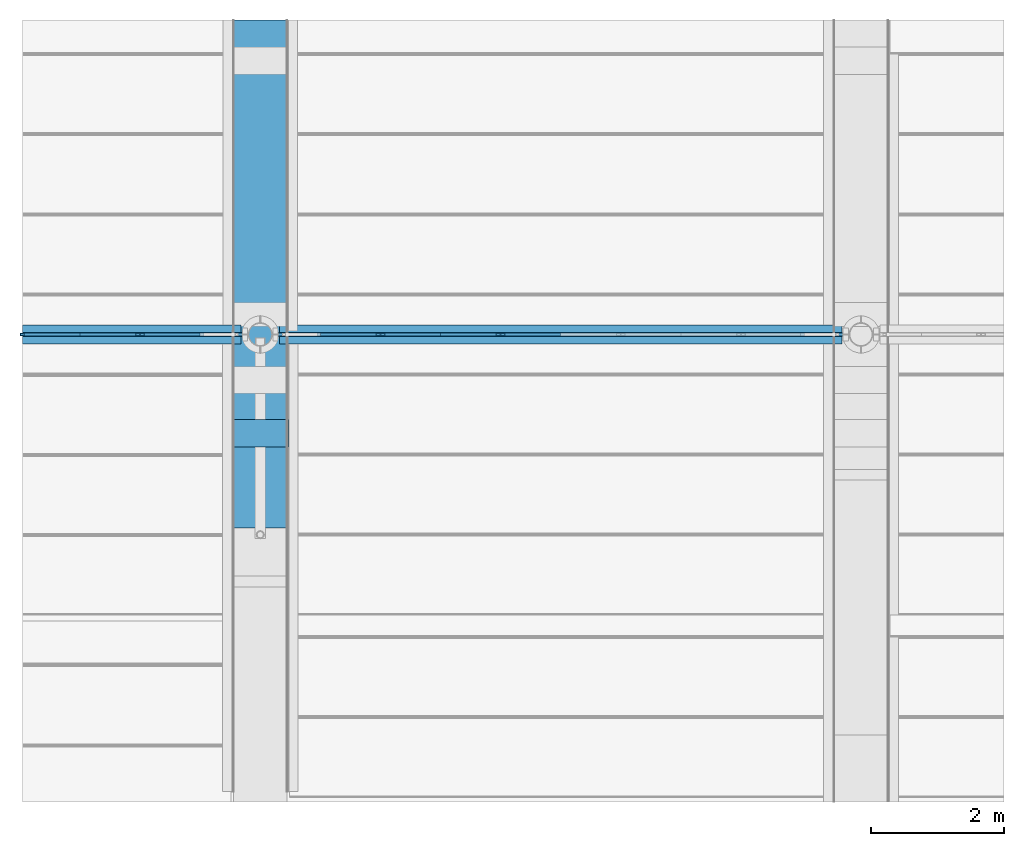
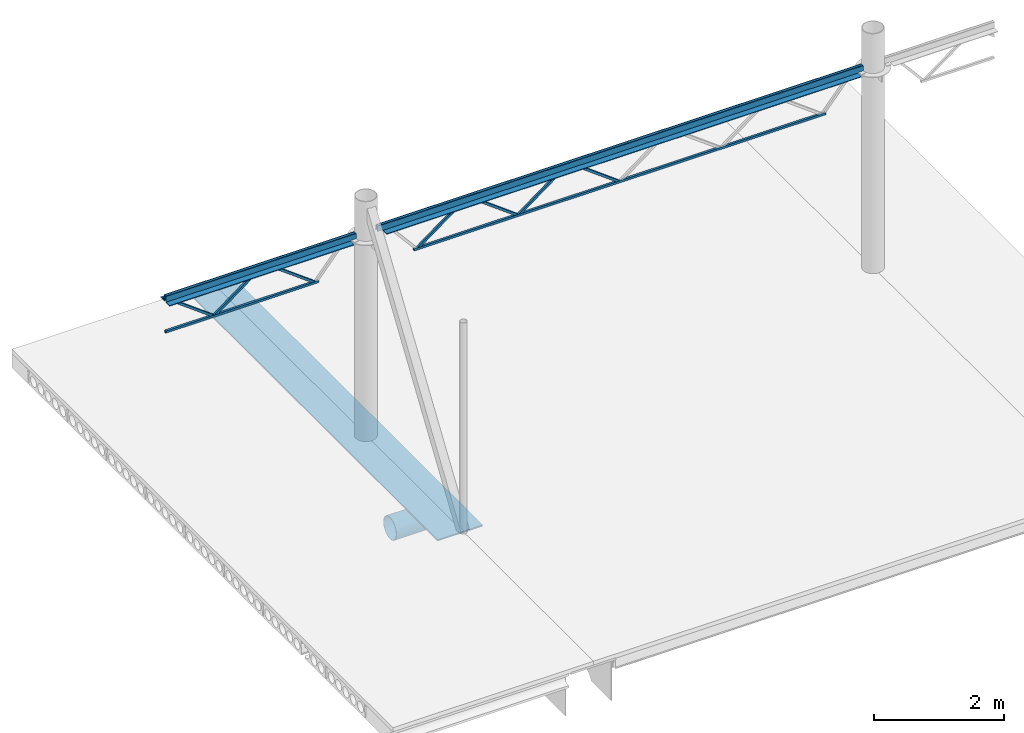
# One storey, part 5 of 21: 17 beams.
"""IFC2X3 building model written with IfcOpenShell, lengths in millimetres."""

from ifc_helpers import new_model, entity, si_unit, converted_unit, derived_unit, direction, frame, origin_with_axes, place, context, subcontext, project, spatial, faceted_brep, material, type_object, element, save


model = new_model("IFC2X3")

# Units and contexts
model_context = context("Model", 3, precision=0.01, world=frame((0.0, 4.29681676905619e-09, 0.0)), true_north=direction((4.01073788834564e-13, 1.0)))
plan_context = context("Plan", 3, precision=0.01, world=frame((0.0, 4.29681676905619e-09, 0.0)), true_north=direction((4.01073788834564e-13, 1.0)))
body_context = subcontext(model_context, "Body", "Model", "MODEL_VIEW")
ifc_project = project(units=[converted_unit("PLANEANGLEUNIT", "DEGREE", entity("IfcPositiveLengthMeasure", 0.0174532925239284), si_unit("PLANEANGLEUNIT", "RADIAN"), dimensions=[0, 0, 0, 0, 0, 0, 0]), si_unit("AREAUNIT", "SQUARE_METRE"), si_unit("LENGTHUNIT", "METRE", prefix="MILLI"), si_unit("MASSUNIT", "GRAM", prefix="KILO"), si_unit("POWERUNIT", "WATT"), si_unit("PRESSUREUNIT", "PASCAL", prefix="KILO"), si_unit("FORCEUNIT", "NEWTON", prefix="KILO"), si_unit("ELECTRICVOLTAGEUNIT", "VOLT"), si_unit("ELECTRICCURRENTUNIT", "AMPERE"), si_unit("THERMODYNAMICTEMPERATUREUNIT", "DEGREE_CELSIUS"), si_unit("TIMEUNIT", "SECOND"), si_unit("VOLUMEUNIT", "CUBIC_METRE"), derived_unit("LINEARVELOCITYUNIT", [(si_unit("LENGTHUNIT", "METRE"), 1), (si_unit("TIMEUNIT", "SECOND"), -1)]), derived_unit("VOLUMETRICFLOWRATEUNIT", [(si_unit("VOLUMEUNIT", "CUBIC_METRE"), 1), (si_unit("TIMEUNIT", "SECOND"), -1)]), derived_unit("THERMALTRANSMITTANCEUNIT", [(si_unit("POWERUNIT", "WATT"), 1), (si_unit("THERMODYNAMICTEMPERATUREUNIT", "KELVIN"), -1), (si_unit("AREAUNIT", "SQUARE_METRE"), -1)]), derived_unit("SOUNDPRESSUREUNIT", [(si_unit("PRESSUREUNIT", "PASCAL"), 1)])], contexts=[model_context, plan_context])

# Site, building, storey
site_placement = place(None, frame((0.0, -4.29681676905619e-09, 0.0), z_axis=(0.0, 0.0, 1.0), x_axis=(1.0, 0.0, 0.0)))
site = spatial("IfcSite", under=ifc_project, at=site_placement, Name="Gardermoen", CompositionType="ELEMENT")
building_placement = place(site_placement, frame((0.0, 4.29681676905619e-09, 0.0), z_axis=(0.0, 0.0, 1.0), x_axis=(1.0, 0.0, 0.0)))
building = spatial("IfcBuilding", under=site, at=building_placement, Name="TS", CompositionType="ELEMENT")
storey_placement = place(building_placement, origin_with_axes())
storey = spatial("IfcBuildingStorey", under=building, at=storey_placement, Name="F", CompositionType="ELEMENT", Elevation=0.0)

# Beams
ifc_material = material(Name="STEEL/S355")
beam_type_1 = type_object("IfcBeamType", Name="L120*12", PredefinedType="NOTDEFINED")
beam_1_placement = place(storey_placement, frame((726812.499965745, 441419.999999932, 214681.000071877), z_axis=(0.0, -1.0, 0.0), x_axis=(-0.999999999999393, 0.0, 1.10199977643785e-06)))
element("IfcBeam", 1, at=beam_1_placement, inside=storey, type_object=beam_type_1, material=ifc_material, Name="STÅLBJELKE", ObjectType="L120*12", context=body_context, shape_type="Brep", body=[
    faceted_brep([(8524.99995152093, 47.9999999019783, 60.0), (8524.99995152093, 47.9999999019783, -48.0), (8524.99996813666, 38.014185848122, -48.0), (8524.99996813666, 38.014185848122, -60.0), (8524.99993152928, 59.9999999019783, -60.0), (8524.99993152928, 59.9999999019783, 60.0), (8624.99996813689, 38.0143522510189, -48.0), (8625.00000020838, 38.0143522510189, -60.0), (99.9998303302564, 48.0000000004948, 60.0), (99.9998114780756, 60.0000000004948, 60.0), (99.9998114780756, 60.0000000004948, -60.0), (99.9998460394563, 38.0001571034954, -60.0), (99.9998460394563, 38.0001571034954, -48.0), (99.9998303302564, 48.0000000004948, -48.0), (8.14907252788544e-10, 38.0000000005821, -60.0), (8.14907252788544e-10, 38.0000000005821, -48.0), (-3.02679836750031e-09, -60.0, -59.9999999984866), (-2.44472175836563e-09, -60.0, -47.9999999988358), (8625.00000020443, -60.0000000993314, -60.0), (8625.00000020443, -60.0000000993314, -48.0)], [[[0, 1, 2, 3, 4, 5]], [[6, 7, 3, 2]], [[8, 9, 10, 11, 12, 13]], [[12, 11, 14, 15]], [[16, 17, 15, 14]], [[17, 16, 18, 19]], [[1, 13, 12, 15, 17, 19, 6, 2]], [[8, 13, 1, 0]], [[9, 8, 0, 5]], [[10, 9, 5, 4]], [[18, 16, 14, 11, 10, 4, 3, 7]], [[19, 18, 7, 6]]]),
])
beam_2_placement = place(storey_placement, frame((726812.499965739, 441579.999999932, 214681.000071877), z_axis=(1.57099997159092e-06, 0.0, 0.999999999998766), x_axis=(-0.999999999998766, 0.0, 1.57099997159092e-06)))
element("IfcBeam", 2, at=beam_2_placement, inside=storey, type_object=beam_type_1, material=ifc_material, Name="STÅLBJELKE", ObjectType="L120*12", context=body_context, shape_type="Brep", body=[
    faceted_brep([(8524.99995152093, 47.9999999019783, -48.0), (8524.99995151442, -60.0, -47.9999999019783), (8524.99993152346, -60.0, -59.9999999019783), (8524.99993152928, 59.9999999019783, -60.0), (8524.99996813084, 60.0, -38.014185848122), (8524.99996813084, 48.0, -38.014185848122), (8624.99996813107, 48.0, -38.0143522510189), (8625.00000020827, 60.0, -38.0143522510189), (99.9998460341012, 48.0, -38.0001571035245), (99.9998460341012, 60.0, -38.0001571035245), (99.9998114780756, 60.0000000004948, -60.0), (99.9998114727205, -60.0, -60.0000000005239), (99.9998303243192, -60.0, -48.0000000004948), (99.9998303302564, 48.0000000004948, -48.0), (8.14907252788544e-10, 48.0, -38.0000000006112), (8.14907252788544e-10, 60.0, -38.0000000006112), (2.91038304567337e-09, 48.0, 59.9999999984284), (2.91038304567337e-09, 60.0, 59.9999999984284), (8625.00000020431, 48.0, 60.0000000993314), (8625.00000020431, 60.0, 60.0000000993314)], [[[0, 1, 2, 3, 4, 5]], [[6, 5, 4, 7]], [[8, 9, 10, 11, 12, 13]], [[14, 15, 9, 8]], [[16, 17, 15, 14]], [[17, 16, 18, 19]], [[19, 18, 6, 7]], [[3, 10, 9, 15, 17, 19, 7, 4]], [[11, 10, 3, 2]], [[12, 11, 2, 1]], [[13, 12, 1, 0]], [[18, 16, 14, 8, 13, 0, 5, 6]]]),
])
beam_3_placement = place(storey_placement, frame((717812.499965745, 441419.999999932, 214681.000071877), z_axis=(0.0, -1.0, 0.0), x_axis=(-0.999999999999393, 0.0, 1.10199977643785e-06)))
element("IfcBeam", 3, at=beam_3_placement, inside=storey, type_object=beam_type_1, Name="STÅLBJELKE", ObjectType="L120*12", context=body_context, shape_type="Brep", body=[
    faceted_brep([(99.9998303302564, 48.0000000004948, -48.0), (99.9998460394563, 38.0001571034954, -48.0), (99.9998460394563, 38.0001571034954, -60.0), (99.9998114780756, 60.0000000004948, -60.0), (99.9998114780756, 60.0000000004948, 60.0), (99.9998303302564, 48.0000000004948, 60.0), (8.14907252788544e-10, 38.0000000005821, -48.0), (8.14907252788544e-10, 38.0000000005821, -60.0), (-2.44472175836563e-09, -60.0, -47.9999999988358), (-3.02679836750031e-09, -60.0, -59.9999999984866), (3374.51253186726, -60.0000000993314, -47.9999999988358), (3374.51253186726, -60.0000000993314, -60.0), (3374.51269716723, 47.9999999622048, -48.0), (3374.51241285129, 47.9999999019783, 60.0), (3374.51269716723, 59.9999999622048, 60.0), (3374.51239962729, 59.9999999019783, -60.0), (3374.51269716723, 47.9999999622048, 60.0), (3374.51269716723, 59.9999999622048, -60.0), (3374.51269716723, -60.0000000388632, -59.9999999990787), (3374.51269716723, -60.0000000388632, -47.9999999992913)], [[[0, 1, 2, 3, 4, 5]], [[6, 7, 2, 1]], [[7, 6, 8, 9]], [[10, 11, 9, 8]], [[12, 10, 8, 6, 1, 0]], [[13, 12, 0, 5]], [[14, 13, 5, 4]], [[15, 14, 4, 3]], [[11, 15, 3, 2, 7, 9]], [[12, 16, 14, 17, 18, 19]]], orient=[[False], [False], [False], [False], [False], [False], [False], [False], [False], [False]]),
])
beam_4_placement = place(storey_placement, frame((717812.499965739, 441579.999999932, 214681.000071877), z_axis=(1.57099997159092e-06, 0.0, 0.999999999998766), x_axis=(-0.999999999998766, 0.0, 1.57099997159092e-06)))
element("IfcBeam", 4, at=beam_4_placement, inside=storey, type_object=beam_type_1, Name="STÅLBJELKE", ObjectType="L120*12", context=body_context, shape_type="Brep", body=[
    faceted_brep([(99.9998303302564, 48.0000000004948, -48.0), (99.9998303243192, -60.0, -48.0000000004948), (99.9998114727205, -60.0, -60.0000000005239), (99.9998114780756, 60.0000000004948, -60.0), (99.9998460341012, 60.0, -38.0001571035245), (99.9998460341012, 48.0, -38.0001571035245), (8.14907252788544e-10, 60.0, -38.0000000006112), (8.14907252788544e-10, 48.0, -38.0000000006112), (2.91038304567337e-09, 60.0, 59.9999999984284), (2.91038304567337e-09, 48.0, 59.9999999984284), (3374.5125600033, 60.0, 60.0000000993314), (3374.5125600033, 48.0, 60.0000000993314), (3374.5127956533, 59.9999999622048, -60.0), (3374.51237148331, -60.0, -59.9999999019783), (3374.51280717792, -60.0, -47.9999999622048), (3374.51239033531, 48.0000000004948, -48.0), (3374.5127956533, -60.0, -59.9999999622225), (3374.5127956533, -60.0, -47.9999999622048), (3374.5127956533, 47.9999999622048, -48.0), (3374.5127956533, 48.0, 60.0000000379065), (3374.5127956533, 60.0, 60.0000000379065)], [[[0, 1, 2, 3, 4, 5]], [[5, 4, 6, 7]], [[7, 6, 8, 9]], [[10, 11, 9, 8]], [[12, 10, 8, 6, 4, 3]], [[13, 12, 3, 2]], [[14, 13, 2, 1]], [[15, 14, 1, 0]], [[11, 15, 0, 5, 7, 9]], [[12, 16, 17, 18, 19, 20]]], orient=[[False], [False], [False], [False], [False], [False], [False], [False], [False], [False]]),
])
beam_type_2 = type_object("IfcBeamType", Name="RHS40*4", PredefinedType="NOTDEFINED")
for number, where, z_axis, x_axis in (
    (5, (719800.500033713, 441499.999999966, 214725.999924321), (-0.597135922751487, 0.0, -0.802140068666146), (0.802140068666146, 0.0, -0.597135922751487)),
    (6, (721600.500033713, 441499.999999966, 214725.999924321), (0.597135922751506, 0.0, -0.802140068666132), (-0.802140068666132, 0.0, -0.597135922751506)),
    (7, (721600.500033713, 441499.999999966, 214725.999924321), (-0.597135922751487, 0.0, -0.802140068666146), (0.802140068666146, 0.0, -0.597135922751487)),
    (8, (719800.500033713, 441499.999999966, 214725.999924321), (0.597135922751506, 0.0, -0.802140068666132), (-0.802140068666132, 0.0, -0.597135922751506)),
):
    element("IfcBeam", number, at=place(storey_placement, frame(where, z_axis=z_axis, x_axis=x_axis)), inside=storey, type_object=beam_type_2, material=ifc_material, Name="STÅLBJELKE", ObjectType="RHS40*4", context=body_context, shape_type="Brep", body=[
        faceted_brep([(63.3368514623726, 16.0, -15.9999999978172), (63.3368514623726, -16.0, -15.9999999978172), (1101.64711034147, -16.0, -15.999999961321), (1101.64711034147, 16.0, -15.999999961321), (20.3508557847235, -16.0, 16.0000000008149), (1058.66111466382, -16.0, 16.0000000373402), (20.3508557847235, 16.0, 16.0000000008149), (1058.66111466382, 16.0, 16.0000000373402), (68.7101009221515, 20.0, -19.9999999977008), (14.9776063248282, 20.0, 20.0000000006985), (1053.28786520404, 20.0, 20.0000000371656), (1107.02035980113, 20.0, -19.9999999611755), (14.9776063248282, -20.0, 20.0000000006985), (1053.28786520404, -20.0, 20.0000000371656), (68.7101009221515, -20.0, -19.9999999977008), (1107.02035980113, -20.0, -19.9999999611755)], [[[0, 1, 2, 3]], [[1, 4, 5, 2]], [[4, 6, 7, 5]], [[6, 0, 3, 7]], [[8, 9, 10, 11]], [[9, 12, 13, 10]], [[12, 14, 15, 13]], [[14, 8, 11, 15]], [[13, 15, 11, 10], [5, 7, 3, 2]], [[14, 12, 9, 8], [6, 4, 1, 0]]]),
    ])
beam_5_placement = place(storey_placement, frame((726153.499816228, 441499.999999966, 214061.000975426), z_axis=(-1.46900000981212e-06, 0.0, -0.999999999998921), x_axis=(-0.999999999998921, 0.0, 1.46900000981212e-06)))
element("IfcBeam", 9, at=beam_5_placement, inside=storey, type_object=beam_type_2, material=ifc_material, Name="STÅLBJELKE", ObjectType="RHS40*4", context=body_context, shape_type="Brep", body=[
    faceted_brep([(0.0, 16.0, -16.0), (0.0, -16.0000000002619, -16.0000000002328), (7307.00000023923, -16.0, -16.000000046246), (7307.00000023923, 16.0, -16.000000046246), (0.0, -15.999999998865, 16.0), (7307.00000023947, -16.0, 15.9999999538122), (0.0, 16.0000000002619, 16.0000000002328), (7307.00000023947, 16.0, 15.9999999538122), (0.0, 20.0, -20.0), (0.0, 20.0, 20.0), (7307.00000023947, 20.0, 19.9999999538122), (7307.00000023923, 20.0, -20.000000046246), (0.0, -19.9999999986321, 20.0), (7307.00000023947, -20.0, 19.9999999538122), (0.0, -20.0, -20.0), (7307.00000023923, -20.0, -20.000000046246)], [[[0, 1, 2, 3]], [[1, 4, 5, 2]], [[4, 6, 7, 5]], [[6, 0, 3, 7]], [[8, 9, 10, 11]], [[9, 12, 13, 10]], [[12, 14, 15, 13]], [[14, 8, 11, 15]], [[13, 15, 11, 10], [5, 7, 3, 2]], [[14, 12, 9, 8], [6, 4, 1, 0]]]),
])
beam_6_placement = place(storey_placement, frame((726812.500033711, 441499.999999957, 214720.99992434), z_axis=(-1.46900000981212e-06, 0.0, -0.999999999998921), x_axis=(-0.999999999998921, 0.0, 1.46900000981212e-06)))
element("IfcBeam", 10, at=beam_6_placement, inside=storey, type_object=beam_type_2, material=ifc_material, Name="STÅLBJELKE", ObjectType="RHS40*4", context=body_context, shape_type="Brep", body=[
    faceted_brep([(0.0, 16.0, -16.0), (0.0, -16.0000000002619, -16.0000000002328), (8625.00000022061, -16.0, -16.0000000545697), (8625.00000022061, 16.0, -16.0000000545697), (0.0, -15.999999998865, 16.0), (8625.00000022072, -16.0, 15.9999999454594), (0.0, 16.0000000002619, 16.0000000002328), (8625.00000022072, 16.0, 15.9999999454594), (0.0, 20.0, -20.0), (0.0, 20.0, 20.0), (8625.00000022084, 20.0, 19.9999999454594), (8625.00000022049, 20.0, -20.0000000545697), (0.0, -19.9999999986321, 20.0), (8625.00000022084, -20.0, 19.9999999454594), (0.0, -20.0, -20.0), (8625.00000022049, -20.0, -20.0000000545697)], [[[0, 1, 2, 3]], [[1, 4, 5, 2]], [[4, 6, 7, 5]], [[6, 0, 3, 7]], [[8, 9, 10, 11]], [[9, 12, 13, 10]], [[12, 14, 15, 13]], [[14, 8, 11, 15]], [[13, 15, 11, 10], [5, 7, 3, 2]], [[14, 12, 9, 8], [6, 4, 1, 0]]]),
])
for number, where, z_axis, x_axis in (
    (11, (714400.500033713, 441499.999999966, 214725.999924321), (-0.597135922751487, 0.0, -0.802140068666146), (0.802140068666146, 0.0, -0.597135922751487)),
    (12, (716200.500033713, 441499.999999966, 214725.999924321), (0.597135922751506, 0.0, -0.802140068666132), (-0.802140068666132, 0.0, -0.597135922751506)),
    (13, (716200.500033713, 441499.999999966, 214725.999924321), (-0.597135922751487, 0.0, -0.802140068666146), (0.802140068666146, 0.0, -0.597135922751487)),
):
    element("IfcBeam", number, at=place(storey_placement, frame(where, z_axis=z_axis, x_axis=x_axis)), inside=storey, type_object=beam_type_2, material=ifc_material, Name="STÅLBJELKE", ObjectType="RHS40*4", context=body_context, shape_type="Brep", body=[
        faceted_brep([(63.3368514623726, 16.0, -15.9999999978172), (63.3368514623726, -16.0, -15.9999999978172), (1101.64711034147, -16.0, -15.999999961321), (1101.64711034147, 16.0, -15.999999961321), (20.3508557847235, -16.0, 16.0000000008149), (1058.66111466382, -16.0, 16.0000000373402), (20.3508557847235, 16.0, 16.0000000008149), (1058.66111466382, 16.0, 16.0000000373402), (68.7101009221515, 20.0, -19.9999999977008), (14.9776063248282, 20.0, 20.0000000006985), (1053.28786520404, 20.0, 20.0000000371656), (1107.02035980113, 20.0, -19.9999999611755), (14.9776063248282, -20.0, 20.0000000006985), (1053.28786520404, -20.0, 20.0000000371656), (68.7101009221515, -20.0, -19.9999999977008), (1107.02035980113, -20.0, -19.9999999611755)], [[[0, 1, 2, 3]], [[1, 4, 5, 2]], [[4, 6, 7, 5]], [[6, 0, 3, 7]], [[8, 9, 10, 11]], [[9, 12, 13, 10]], [[12, 14, 15, 13]], [[14, 8, 11, 15]], [[13, 15, 11, 10], [5, 7, 3, 2]], [[14, 12, 9, 8], [6, 4, 1, 0]]]),
    ])
beam_7_placement = place(storey_placement, frame((717812.500033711, 441499.999999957, 214720.99992434), z_axis=(-1.46900000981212e-06, 0.0, -0.999999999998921), x_axis=(-0.999999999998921, 0.0, 1.46900000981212e-06)))
element("IfcBeam", 14, at=beam_7_placement, inside=storey, type_object=beam_type_2, Name="STÅLBJELKE", ObjectType="RHS40*4", context=body_context, shape_type="Brep", body=[
    faceted_brep([(3374.51255721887, 16.0, -16.0000000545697), (3374.51255721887, -16.0000000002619, -16.0000000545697), (0.0, -16.0000000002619, -16.0000000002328), (0.0, 16.0, -16.0), (3374.51278344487, -15.9999999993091, 15.9999999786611), (0.0, -15.999999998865, 16.0), (3374.51251021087, 16.0000000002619, 15.9999999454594), (0.0, 16.0000000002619, 16.0000000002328), (3374.51278344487, 20.0, -20.0000000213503), (3374.51278344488, 20.0, 19.9999999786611), (0.0, 20.0, 20.0), (0.0, 20.0, -20.0), (3374.51250433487, -20.0, 19.9999999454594), (0.0, -19.9999999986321, 20.0), (3374.51278344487, -20.0, -20.0000000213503), (0.0, -20.0, -20.0), (3374.51228398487, -20.0, -20.0000000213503), (3374.51228398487, -19.9999999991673, 19.9999999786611), (3374.51228398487, 20.0, 19.9999999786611), (3374.51228398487, 20.0, -20.0000000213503), (3374.51228398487, 16.0000000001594, 15.9999999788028), (3374.51228398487, -15.9999999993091, 15.9999999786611), (3374.51228398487, -16.0000000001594, -16.000000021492), (3374.51228398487, 16.0, -16.0000000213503)], [[[0, 1, 2, 3]], [[1, 4, 5, 2]], [[4, 6, 7, 5]], [[6, 0, 3, 7]], [[8, 9, 10, 11]], [[9, 12, 13, 10]], [[12, 14, 15, 13]], [[14, 8, 11, 15]], [[11, 10, 13, 15], [3, 2, 5, 7]], [[16, 17, 18, 19], [20, 21, 22, 23]]], orient=[[False], [False], [False], [False], [False], [False], [False], [False], [False, False], [False, False]]),
])
beam_8_placement = place(storey_placement, frame((717153.499816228, 441499.999999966, 214061.000975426), z_axis=(-1.46900000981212e-06, 0.0, -0.999999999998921), x_axis=(-0.999999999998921, 0.0, 1.46900000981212e-06)))
element("IfcBeam", 15, at=beam_8_placement, inside=storey, type_object=beam_type_2, Name="STÅLBJELKE", ObjectType="RHS40*4", context=body_context, shape_type="Brep", body=[
    faceted_brep([(2715.51233973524, 16.0, -16.000000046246), (2715.51233973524, -16.0000000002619, -16.000000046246), (0.0, -16.0000000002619, -16.0000000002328), (0.0, 16.0, -16.0), (2715.51256596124, -15.9999999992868, 15.9999999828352), (0.0, -15.999999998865, 16.0), (2715.51229272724, 16.0000000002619, 15.9999999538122), (0.0, 16.0000000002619, 16.0000000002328), (2715.51256596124, 20.0, -20.0000000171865), (2715.51256596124, 20.0, 19.9999999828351), (0.0, 20.0, 20.0), (0.0, 20.0, -20.0), (2715.51228685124, -20.0, 19.9999999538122), (0.0, -19.9999999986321, 20.0), (2715.51256596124, -20.0, -20.0000000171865), (0.0, -20.0, -20.0), (2715.51206650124, -20.0, -20.0000000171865), (2715.51206650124, -19.9999999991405, 19.9999999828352), (2715.51206650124, 20.0, 19.9999999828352), (2715.51206650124, 20.0, -20.0000000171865), (2715.51206650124, 16.0000000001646, 15.9999999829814), (2715.51206650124, -15.9999999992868, 15.9999999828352), (2715.51206650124, -16.0000000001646, -16.0000000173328), (2715.51206650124, 16.0, -16.0000000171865)], [[[0, 1, 2, 3]], [[1, 4, 5, 2]], [[4, 6, 7, 5]], [[6, 0, 3, 7]], [[8, 9, 10, 11]], [[9, 12, 13, 10]], [[12, 14, 15, 13]], [[14, 8, 11, 15]], [[11, 10, 13, 15], [3, 2, 5, 7]], [[16, 17, 18, 19], [20, 21, 22, 23]]], orient=[[False], [False], [False], [False], [False], [False], [False], [False], [False, False], [False, False]]),
])
beam_type_3 = type_object("IfcBeamType", Name="RØR406.4X6.3", PredefinedType="NOTDEFINED")
beam_9_placement = place(storey_placement, frame((718427.0, 440020.0, 210175.0), z_axis=(0.0, 0.0, 1.0), x_axis=(-0.999999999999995, -9.99999902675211e-08, 0.0)))
element("IfcBeam", 16, at=beam_9_placement, inside=storey, type_object=beam_type_3, material=ifc_material, Name="STÅLBJELKE", ObjectType="RØR406.4X6.3", context=body_context, shape_type="Brep", body=[
    faceted_brep([(0.0, -196.900000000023, 0.0), (0.0, -193.908646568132, 34.1913261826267), (854.0, -193.908646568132, 34.1913261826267), (854.0, -196.900000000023, 0.0), (0.0, -185.025477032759, 67.3437662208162), (854.0, -185.025477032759, 67.3437662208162), (0.0, -170.520402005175, 98.4500000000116), (854.0, -170.520402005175, 98.4500000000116), (0.0, -150.834150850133, 126.564880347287), (854.0, -150.834150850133, 126.564880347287), (0.0, -126.564880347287, 150.834150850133), (854.0, -126.564880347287, 150.834150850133), (0.0, -98.4500000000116, 170.520402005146), (854.0, -98.4500000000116, 170.520402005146), (0.0, -67.3437662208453, 185.025477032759), (854.0, -67.3437662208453, 185.025477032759), (0.0, -34.1913261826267, 193.908646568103), (854.0, -34.1913261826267, 193.908646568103), (0.0, 0.0, 196.899999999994), (854.0, 0.0, 196.899999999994), (0.0, 34.1913261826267, 193.908646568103), (854.0, 34.1913261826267, 193.908646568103), (0.0, 67.3437662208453, 185.025477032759), (854.0, 67.3437662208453, 185.025477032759), (0.0, 98.4500000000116, 170.520402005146), (854.0, 98.4500000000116, 170.520402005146), (0.0, 126.564880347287, 150.834150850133), (854.0, 126.564880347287, 150.834150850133), (0.0, 150.834150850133, 126.564880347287), (854.0, 150.834150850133, 126.564880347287), (0.0, 170.520402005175, 98.4500000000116), (854.0, 170.520402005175, 98.4500000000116), (0.0, 185.025477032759, 67.3437662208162), (854.0, 185.025477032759, 67.3437662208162), (0.0, 193.908646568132, 34.1913261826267), (854.0, 193.908646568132, 34.1913261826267), (0.0, 196.900000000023, 0.0), (854.0, 196.900000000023, 0.0), (0.0, 193.908646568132, -34.1913261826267), (854.0, 193.908646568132, -34.1913261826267), (0.0, 185.025477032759, -67.3437662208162), (854.0, 185.025477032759, -67.3437662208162), (0.0, 170.520402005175, -98.4500000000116), (854.0, 170.520402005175, -98.4500000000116), (0.0, 150.834150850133, -126.564880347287), (854.0, 150.834150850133, -126.564880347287), (0.0, 126.564880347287, -150.834150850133), (854.0, 126.564880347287, -150.834150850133), (0.0, 98.4500000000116, -170.520402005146), (854.0, 98.4500000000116, -170.520402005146), (0.0, 67.3437662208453, -185.025477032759), (854.0, 67.3437662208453, -185.025477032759), (0.0, 34.1913261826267, -193.908646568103), (854.0, 34.1913261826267, -193.908646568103), (0.0, 0.0, -196.899999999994), (854.0, 0.0, -196.899999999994), (0.0, -34.1913261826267, -193.908646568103), (854.0, -34.1913261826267, -193.908646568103), (0.0, -67.3437662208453, -185.025477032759), (854.0, -67.3437662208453, -185.025477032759), (0.0, -98.4500000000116, -170.520402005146), (854.0, -98.4500000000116, -170.520402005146), (0.0, -126.564880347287, -150.834150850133), (854.0, -126.564880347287, -150.834150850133), (0.0, -150.834150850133, -126.564880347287), (854.0, -150.834150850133, -126.564880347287), (0.0, -170.520402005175, -98.4500000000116), (854.0, -170.520402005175, -98.4500000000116), (0.0, -185.025477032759, -67.3437662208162), (854.0, -185.025477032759, -67.3437662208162), (0.0, -193.908646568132, -34.1913261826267), (854.0, -193.908646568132, -34.1913261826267), (0.0, -203.200000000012, 0.0), (0.0, -200.112935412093, -35.2853097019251), (854.0, -200.112935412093, -35.2853097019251), (854.0, -203.200000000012, 0.0), (0.0, -190.945540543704, -69.4984931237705), (854.0, -190.945540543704, -69.4984931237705), (0.0, -175.976362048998, -101.600000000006), (854.0, -175.976362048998, -101.600000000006), (0.0, -155.660230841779, -130.614442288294), (854.0, -155.660230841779, -130.614442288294), (0.0, -130.614442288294, -155.660230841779), (854.0, -130.614442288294, -155.660230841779), (0.0, -101.599999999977, -175.976362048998), (854.0, -101.599999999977, -175.976362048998), (0.0, -69.4984931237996, -190.945540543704), (854.0, -69.4984931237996, -190.945540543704), (0.0, -35.2853097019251, -200.112935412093), (854.0, -35.2853097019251, -200.112935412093), (0.0, 0.0, -203.200000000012), (854.0, 0.0, -203.200000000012), (0.0, 35.2853097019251, -200.112935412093), (854.0, 35.2853097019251, -200.112935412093), (0.0, 69.4984931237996, -190.945540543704), (854.0, 69.4984931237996, -190.945540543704), (0.0, 101.599999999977, -175.976362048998), (854.0, 101.599999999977, -175.976362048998), (0.0, 130.614442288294, -155.660230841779), (854.0, 130.614442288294, -155.660230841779), (0.0, 155.660230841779, -130.614442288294), (854.0, 155.660230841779, -130.614442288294), (0.0, 175.976362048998, -101.600000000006), (854.0, 175.976362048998, -101.600000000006), (0.0, 190.945540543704, -69.4984931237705), (854.0, 190.945540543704, -69.4984931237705), (0.0, 200.112935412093, -35.2853097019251), (854.0, 200.112935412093, -35.2853097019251), (0.0, 203.200000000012, 0.0), (854.0, 203.200000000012, 0.0), (0.0, 200.112935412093, 35.2853097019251), (854.0, 200.112935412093, 35.2853097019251), (0.0, 190.945540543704, 69.4984931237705), (854.0, 190.945540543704, 69.4984931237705), (0.0, 175.976362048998, 101.600000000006), (854.0, 175.976362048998, 101.600000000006), (0.0, 155.660230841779, 130.614442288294), (854.0, 155.660230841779, 130.614442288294), (0.0, 130.614442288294, 155.660230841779), (854.0, 130.614442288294, 155.660230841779), (0.0, 101.599999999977, 175.976362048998), (854.0, 101.599999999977, 175.976362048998), (0.0, 69.4984931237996, 190.945540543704), (854.0, 69.4984931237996, 190.945540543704), (0.0, 35.2853097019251, 200.112935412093), (854.0, 35.2853097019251, 200.112935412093), (0.0, 0.0, 203.200000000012), (854.0, 0.0, 203.200000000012), (0.0, -35.2853097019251, 200.112935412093), (854.0, -35.2853097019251, 200.112935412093), (0.0, -69.4984931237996, 190.945540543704), (854.0, -69.4984931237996, 190.945540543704), (0.0, -101.599999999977, 175.976362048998), (854.0, -101.599999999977, 175.976362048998), (0.0, -130.614442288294, 155.660230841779), (854.0, -130.614442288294, 155.660230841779), (0.0, -155.660230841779, 130.614442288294), (854.0, -155.660230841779, 130.614442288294), (0.0, -175.976362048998, 101.600000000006), (854.0, -175.976362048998, 101.600000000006), (0.0, -190.945540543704, 69.4984931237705), (854.0, -190.945540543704, 69.4984931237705), (0.0, -200.112935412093, 35.2853097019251), (854.0, -200.112935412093, 35.2853097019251)], [[[0, 1, 2, 3]], [[1, 4, 5, 2]], [[4, 6, 7, 5]], [[6, 8, 9, 7]], [[8, 10, 11, 9]], [[10, 12, 13, 11]], [[12, 14, 15, 13]], [[14, 16, 17, 15]], [[16, 18, 19, 17]], [[18, 20, 21, 19]], [[20, 22, 23, 21]], [[22, 24, 25, 23]], [[24, 26, 27, 25]], [[26, 28, 29, 27]], [[28, 30, 31, 29]], [[30, 32, 33, 31]], [[32, 34, 35, 33]], [[34, 36, 37, 35]], [[36, 38, 39, 37]], [[38, 40, 41, 39]], [[40, 42, 43, 41]], [[42, 44, 45, 43]], [[44, 46, 47, 45]], [[46, 48, 49, 47]], [[48, 50, 51, 49]], [[50, 52, 53, 51]], [[52, 54, 55, 53]], [[54, 56, 57, 55]], [[56, 58, 59, 57]], [[58, 60, 61, 59]], [[60, 62, 63, 61]], [[62, 64, 65, 63]], [[64, 66, 67, 65]], [[66, 68, 69, 67]], [[68, 70, 71, 69]], [[70, 0, 3, 71]], [[72, 73, 74, 75]], [[73, 76, 77, 74]], [[76, 78, 79, 77]], [[78, 80, 81, 79]], [[80, 82, 83, 81]], [[82, 84, 85, 83]], [[84, 86, 87, 85]], [[86, 88, 89, 87]], [[88, 90, 91, 89]], [[90, 92, 93, 91]], [[92, 94, 95, 93]], [[94, 96, 97, 95]], [[96, 98, 99, 97]], [[98, 100, 101, 99]], [[100, 102, 103, 101]], [[102, 104, 105, 103]], [[104, 106, 107, 105]], [[106, 108, 109, 107]], [[108, 110, 111, 109]], [[110, 112, 113, 111]], [[112, 114, 115, 113]], [[114, 116, 117, 115]], [[116, 118, 119, 117]], [[118, 120, 121, 119]], [[120, 122, 123, 121]], [[122, 124, 125, 123]], [[124, 126, 127, 125]], [[126, 128, 129, 127]], [[128, 130, 131, 129]], [[130, 132, 133, 131]], [[132, 134, 135, 133]], [[134, 136, 137, 135]], [[136, 138, 139, 137]], [[138, 140, 141, 139]], [[140, 142, 143, 141]], [[142, 72, 75, 143]], [[77, 79, 81, 83, 85, 87, 89, 91, 93, 95, 97, 99, 101, 103, 105, 107, 109, 111, 113, 115, 117, 119, 121, 123, 125, 127, 129, 131, 133, 135, 137, 139, 141, 143, 75, 74], [5, 7, 9, 11, 13, 15, 17, 19, 21, 23, 25, 27, 29, 31, 33, 35, 37, 39, 41, 43, 45, 47, 49, 51, 53, 55, 57, 59, 61, 63, 65, 67, 69, 71, 3, 2]], [[142, 140, 138, 136, 134, 132, 130, 128, 126, 124, 122, 120, 118, 116, 114, 112, 110, 108, 106, 104, 102, 100, 98, 96, 94, 92, 90, 88, 86, 84, 82, 80, 78, 76, 73, 72], [70, 68, 66, 64, 62, 60, 58, 56, 54, 52, 50, 48, 46, 44, 42, 40, 38, 36, 34, 32, 30, 28, 26, 24, 22, 20, 18, 16, 14, 12, 10, 8, 6, 4, 1, 0]]]),
])
beam_type_4 = type_object("IfcBeamType", Name="800*25", PredefinedType="NOTDEFINED")
beam_10_placement = place(storey_placement, frame((718000.0, 438600.0, 210792.5), z_axis=(-1.0, 0.0, 0.0), x_axis=(0.0, 1.0, 0.0)))
element("IfcBeam", 17, at=beam_10_placement, inside=storey, type_object=beam_type_4, Name="STÅLBJELKE", ObjectType="800*25", context=body_context, shape_type="Brep", body=[
    faceted_brep([(7611.42334957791, 12.5, -400.0), (7611.42334957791, 12.5, 400.0), (0.0, 12.5, 400.0), (0.0, 12.5, -400.0), (7611.42334957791, -12.5, 400.0), (0.0, -12.5, 400.0), (7611.42334957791, -12.5, -400.0), (0.0, -12.5, -400.0)], [[[0, 1, 2, 3]], [[1, 4, 5, 2]], [[4, 6, 7, 5]], [[6, 0, 3, 7]], [[3, 2, 5, 7]], [[6, 4, 1, 0]]], orient=[[False], [False], [False], [False], [False], [False]]),
])

save(model, "model.ifc")
